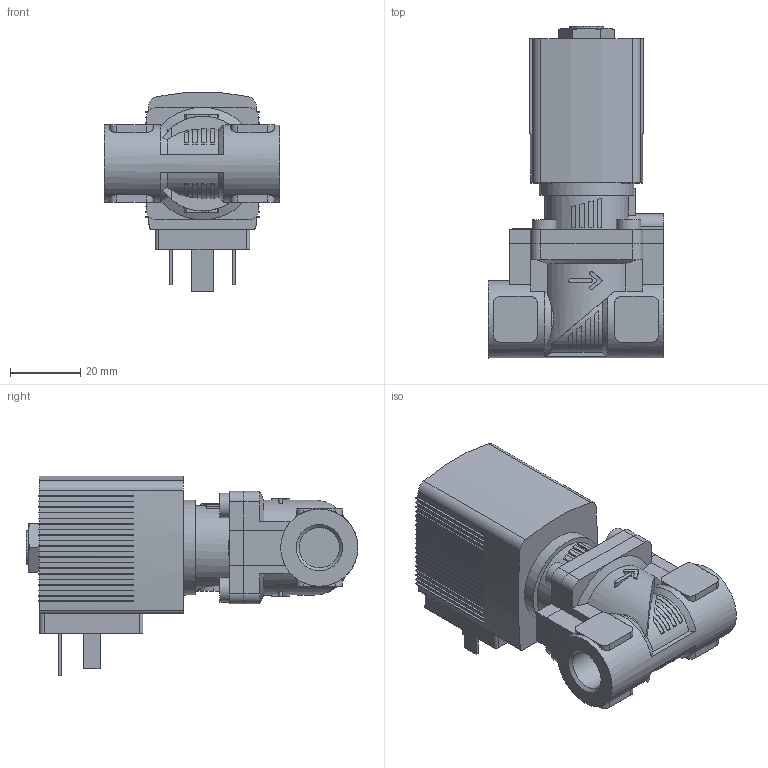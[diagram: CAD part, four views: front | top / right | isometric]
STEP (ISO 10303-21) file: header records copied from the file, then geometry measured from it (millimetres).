
FILE_DESCRIPTION(/* description */ ('STEP AP214'),/* implementation_level */ '2;1');
FILE_NAME(/* name */ '6281-346866-2_2-Way_Solenoid_Valve__Servo-assisted__General_Purpose',/* time_stamp */ '2024-06-17T12:57:58+02:00',/* author */ ('License CC BY-ND 4.0'),/* organization */ ('CADENAS'),/* preprocessor_version */ 'ST-DEVELOPER v19.3',/* originating_system */ 'PARTsolutions',/* authorisation */ ' ');
FILE_SCHEMA (('AUTOMOTIVE_DESIGN {1 0 10303 214 3 1 1}'));
Length unit declared in the file: millimetre
Products named in the file (4): 6281-346866-2/2-Way Solenoid Valve, Servo-assisted, General Purpose; 5281ev100VA2/2-Wege-Magnetventil mit Servomembran-Deckel   ; 6213-10G1/4VA-Gehaeuse-; AC10ex-5OO-Plan-Coil
Assembly tree (3 placements, depth 2):
  6281-346866-2/2-Way Solenoid Valve, Servo-assisted, General Purpose
    5281ev100VA2/2-Wege-Magnetventil mit Servomembran-Deckel   
    6213-10G1/4VA-Gehaeuse-
    AC10ex-5OO-Plan-Coil
Bounding box: 50 x 94.5 x 56.84 mm (x, y, z)
Volume: 94005.7 mm3; surface area: 22814.5 mm2
Topology: 3 solids, 3 shells, 531 faces, 1461 edges, 968 vertices
Faces by surface type: plane 430, cylinder 86, cone 15
Full cylindrical faces by diameter (mm): 2.013 x1, 7 x4, 9.74 x1, 11.445 x2, 22 x1, 27 x1
Entity records: 19398 total; most frequent: CARTESIAN_POINT 3180, ORIENTED_EDGE 2872, DIRECTION 2752, EDGE_CURVE 1436, LINE 1054, VECTOR 1054, VERTEX_POINT 959, AXIS2_PLACEMENT_3D 849
